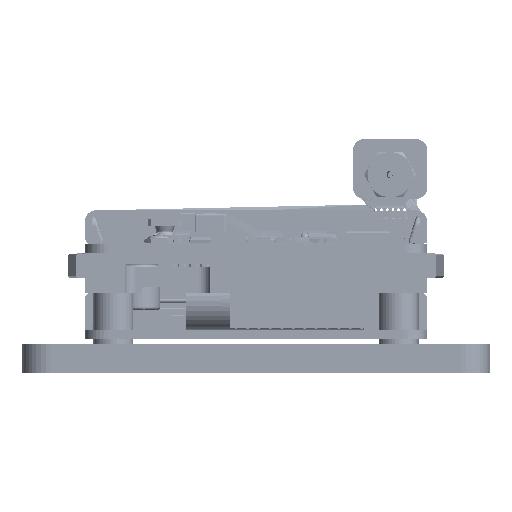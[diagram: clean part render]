
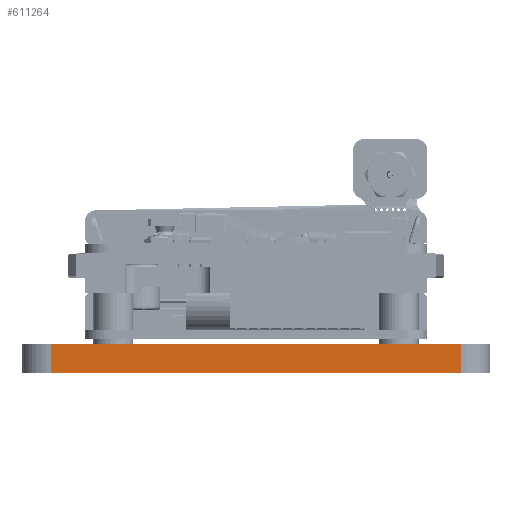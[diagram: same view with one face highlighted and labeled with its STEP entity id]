
A CAD part, left-side view. The second image highlights one B-rep face of the part: STEP entity #611264.
In plain terms, the highlighted planar face has unit normal (-1, 0, 0).
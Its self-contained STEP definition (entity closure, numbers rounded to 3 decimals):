
#2216 = AXIS2_PLACEMENT_3D ( 'NONE', #297079, #586995, #92474 ) ;
#7059 = PLANE ( 'NONE',  #2216 ) ;
#7901 = DIRECTION ( 'NONE',  ( 0., -1., 0. ) ) ;
#89551 = CARTESIAN_POINT ( 'NONE',  ( 14.87, -36., -1.59 ) ) ;
#92474 = DIRECTION ( 'NONE',  ( 0., 0.707, 0.707 ) ) ;
#102126 = EDGE_CURVE ( 'NONE', #346613, #647213, #416584, .T. ) ;
#146851 = EDGE_CURVE ( 'NONE', #346613, #502324, #440541, .T. ) ;
#148868 = CARTESIAN_POINT ( 'NONE',  ( 14.87, -36., -6.59 ) ) ;
#154479 = FACE_OUTER_BOUND ( 'NONE', #758922, .T. ) ;
#193422 = VECTOR ( 'NONE', #449142, 1000. ) ;
#274983 = CARTESIAN_POINT ( 'NONE',  ( 14.87, 36., -6.59 ) ) ;
#297079 = CARTESIAN_POINT ( 'NONE',  ( 14.87, 36., -1.59 ) ) ;
#319596 = CARTESIAN_POINT ( 'NONE',  ( 14.87, 36., -1.59 ) ) ;
#346613 = VERTEX_POINT ( 'NONE', #319596 ) ;
#354476 = VECTOR ( 'NONE', #7901, 1000. ) ;
#373932 = CARTESIAN_POINT ( 'NONE',  ( 14.87, 36., -1.59 ) ) ;
#383795 = CARTESIAN_POINT ( 'NONE',  ( 14.87, -36., -1.59 ) ) ;
#387128 = LINE ( 'NONE', #467831, #193422 ) ;
#393224 = VECTOR ( 'NONE', #749680, 1000. ) ;
#416584 = LINE ( 'NONE', #773136, #769996 ) ;
#426286 = ORIENTED_EDGE ( 'NONE', *, *, #102126, .T. ) ;
#438214 = ORIENTED_EDGE ( 'NONE', *, *, #606601, .F. ) ;
#440541 = LINE ( 'NONE', #373932, #354476 ) ;
#449142 = DIRECTION ( 'NONE',  ( 0., -1., 0. ) ) ;
#467831 = CARTESIAN_POINT ( 'NONE',  ( 14.87, 36., -6.59 ) ) ;
#502324 = VERTEX_POINT ( 'NONE', #89551 ) ;
#557948 = VERTEX_POINT ( 'NONE', #148868 ) ;
#568085 = ORIENTED_EDGE ( 'NONE', *, *, #146851, .F. ) ;
#586995 = DIRECTION ( 'NONE',  ( 1., 0., 0. ) ) ;
#587231 = EDGE_CURVE ( 'NONE', #647213, #557948, #387128, .T. ) ;
#606601 = EDGE_CURVE ( 'NONE', #502324, #557948, #882971, .T. ) ;
#611264 = ADVANCED_FACE ( 'NONE', ( #154479 ), #7059, .F. ) ;
#612437 = ORIENTED_EDGE ( 'NONE', *, *, #587231, .T. ) ;
#647213 = VERTEX_POINT ( 'NONE', #274983 ) ;
#749680 = DIRECTION ( 'NONE',  ( 0., 0., -1. ) ) ;
#758922 = EDGE_LOOP ( 'NONE', ( #612437, #438214, #568085, #426286 ) ) ;
#769996 = VECTOR ( 'NONE', #844438, 1000. ) ;
#773136 = CARTESIAN_POINT ( 'NONE',  ( 14.87, 36., -1.59 ) ) ;
#844438 = DIRECTION ( 'NONE',  ( 0., 0., -1. ) ) ;
#882971 = LINE ( 'NONE', #383795, #393224 ) ;
